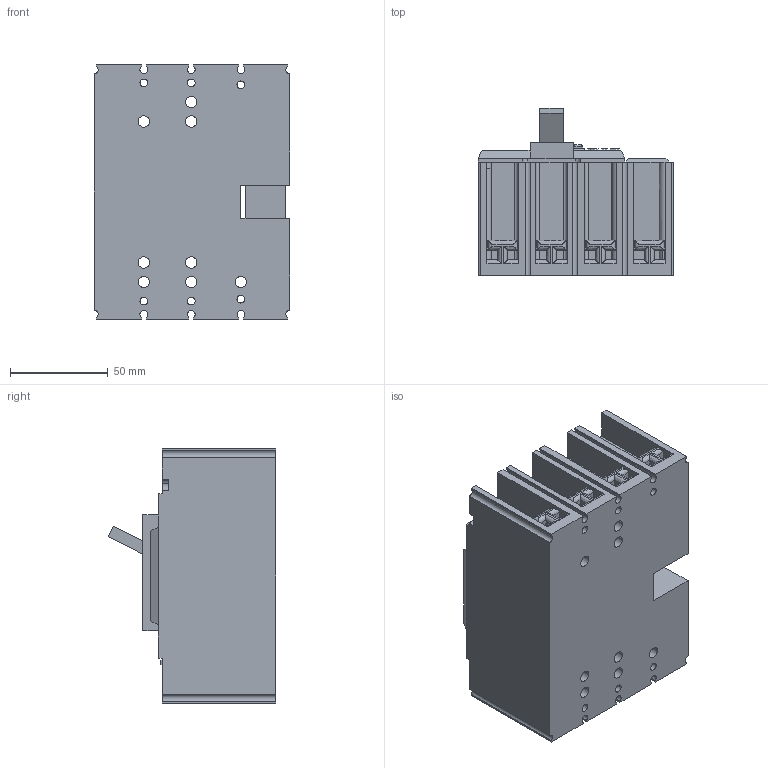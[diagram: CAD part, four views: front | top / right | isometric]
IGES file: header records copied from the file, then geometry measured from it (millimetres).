
Start section:  PTC IGES file: 17-metasol-mccb-100af-4p.igs
Global section: file name: 17-metasol-mccb-100af-4p.igs; native system: Pro/ENGINEER by Parametric Technology Corporation; preprocessor: 2010280; author: mgkimb; organization: Unknown; date: 20131029.143115; units: millimetre
Bounding box: 100 x 85.7 x 130 mm (x, y, z)
Surface area: 94648.1 mm2 (no closed solid volume)
Topology: 0 solids, 0 shells, 720 faces, 4168 edges, 4168 vertices
Faces by surface type: bspline 499, revolution 221
